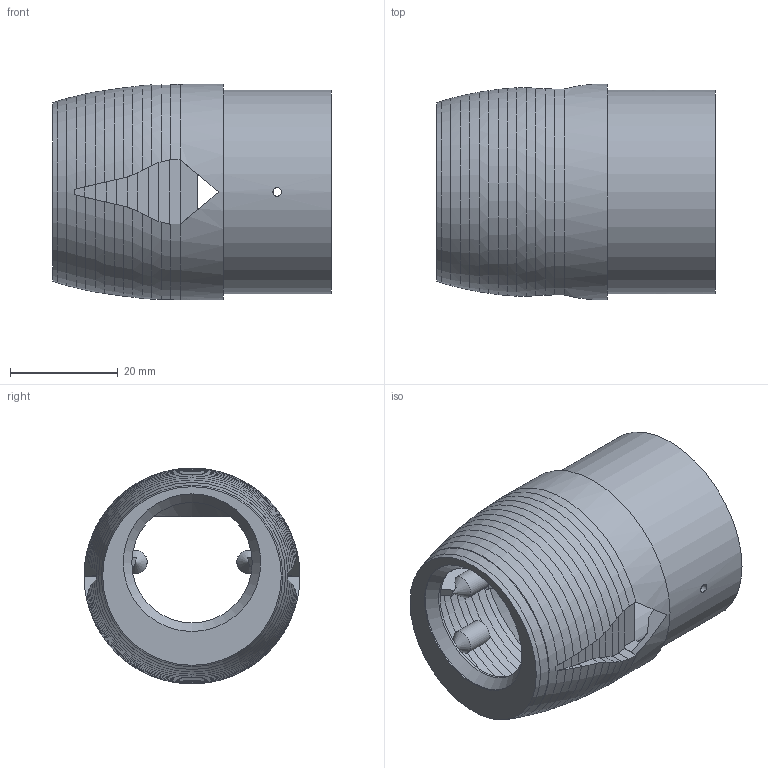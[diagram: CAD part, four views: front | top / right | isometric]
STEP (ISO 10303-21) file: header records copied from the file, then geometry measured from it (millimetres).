
FILE_DESCRIPTION(('SkyG Speed 90B - revision C6B-17 - 2026-10-13','N0P-nose-pi-camera'),'2;1');
FILE_NAME('N0P-nose-pi-camera_C6B-17','2026-10-13T21:54:45',('Author'),( 'Open CASCADE'),'Open CASCADE STEP processor 7.9','Open CASCADE 7.9' ,'Unknown');
FILE_SCHEMA(('AUTOMOTIVE_DESIGN { 1 0 10303 214 1 1 1 1 }'));
Length unit declared in the file: millimetre
Products named in the file (1): N0P-nose-pi-camera C6B-17
Bounding box: 51.6 x 40 x 40 mm (x, y, z)
Volume: 12826.6 mm3; surface area: 14857.1 mm2
Topology: 1 solids, 1 shells, 326 faces, 918 edges, 592 vertices
Faces by surface type: plane 152, cone 74, bspline 68, cylinder 32
Full cylindrical faces by diameter (mm): 1.6 x6, 2 x1, 22.315 x1, 25.5 x1, 33.8 x1, 37.7 x1, 40 x1
Entity records: 26151 total; most frequent: CARTESIAN_POINT 9831, DIRECTION 2478, ORIENTED_EDGE 1828, PCURVE 1828, DEFINITIONAL_REPRESENTATION 1828, LINE 1278, VECTOR 1278, B_SPLINE_CURVE_WITH_KNOTS 975
